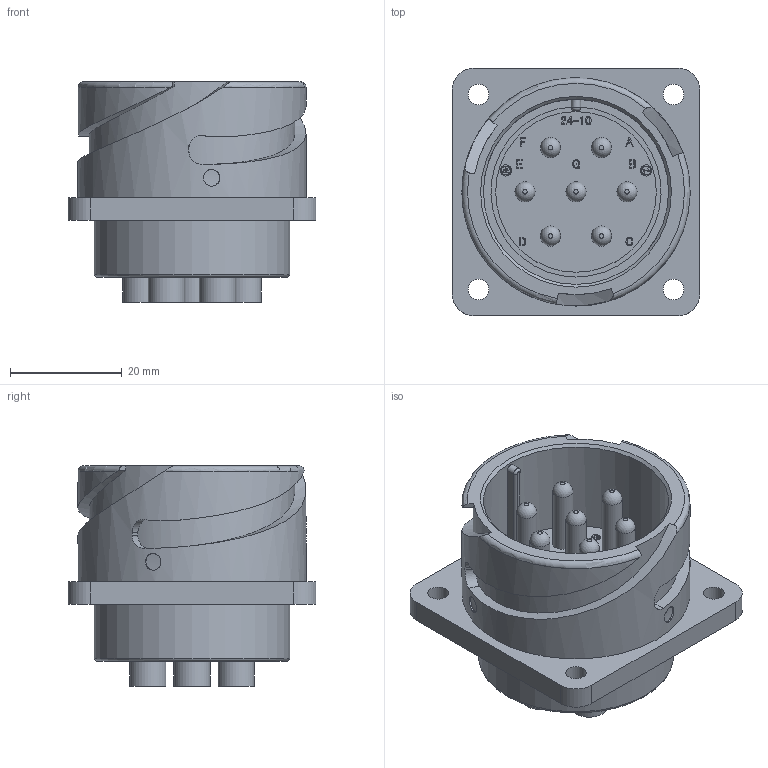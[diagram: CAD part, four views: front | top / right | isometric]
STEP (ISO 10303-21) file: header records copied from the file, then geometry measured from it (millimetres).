
FILE_DESCRIPTION (( 'STEP AP203' ), '1' );
FILE_NAME ('DCA3102E24-10P-D(R1).STEP', '2021-12-22T08:35:06', ( '' ), ( '' ), 'SwSTEP 2.0', 'SolidWorks 2018', '' );
FILE_SCHEMA (( 'CONFIG_CONTROL_DESIGN' ));
Length unit declared in the file: millimetre
Products named in the file (1): DCA3102E24-10P-D(R1)
Bounding box: 44.45 x 44.45 x 39.5 mm (x, y, z)
Volume: 29318.3 mm3; surface area: 14325.1 mm2
Topology: 1 solids, 1 shells, 601 faces, 1581 edges, 1045 vertices
Faces by surface type: plane 318, bspline 189, cylinder 59, cone 16, torus 12, sphere 7
Full cylindrical faces by diameter (mm): 1.6 x4, 2 x4, 3.607 x7, 3.7 x4, 5 x7, 6.5 x7, 7.8 x7, 28.8 x1, 31 x1, 33.2 x1, 35 x1, 40.9 x1
Entity records: 25115 total; most frequent: CARTESIAN_POINT 11986, ORIENTED_EDGE 2918, DIRECTION 2019, EDGE_CURVE 1459, VERTEX_POINT 1009, VECTOR 913, LINE 913, EDGE_LOOP 758
